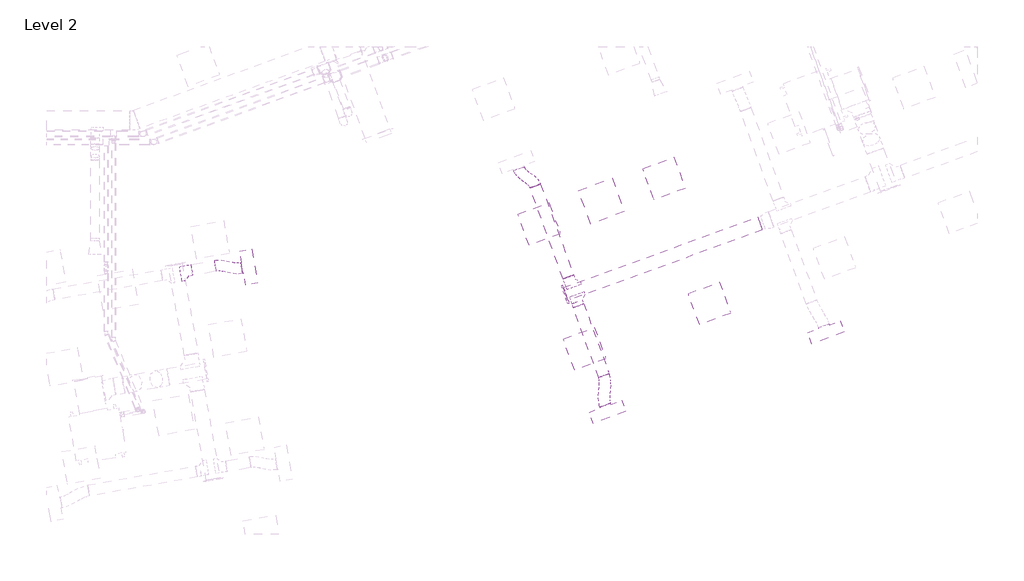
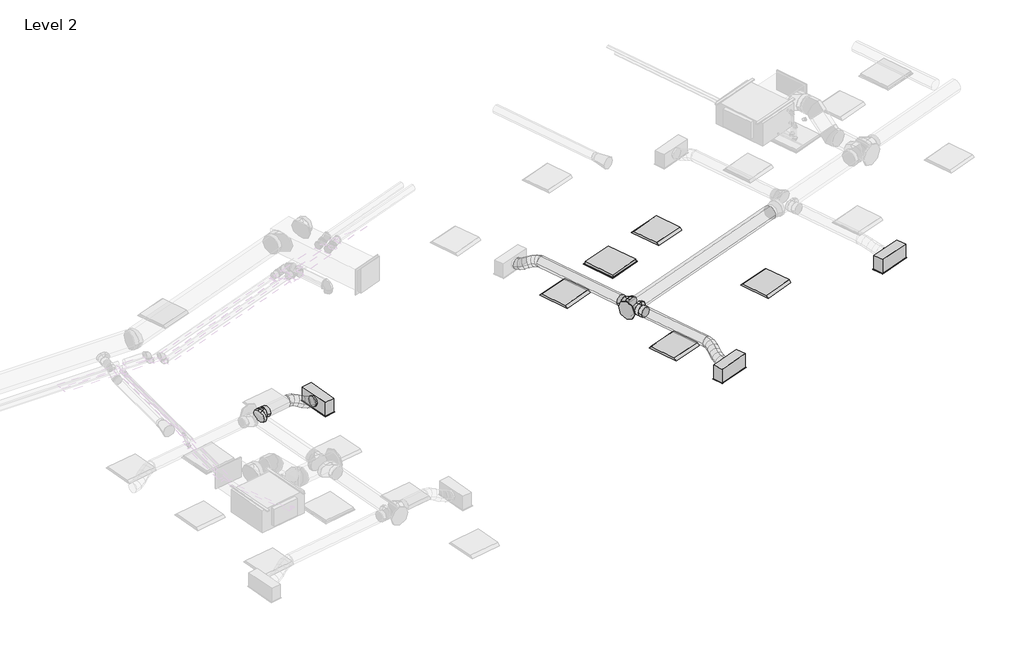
# One storey, part 16 of 26: 6 duct segments, 4 air terminals, 4 duct fittings, 4 light fixtures.
"""IFC4 building model written with IfcOpenShell, lengths in millimetres."""

from ifc_helpers import new_model, si_unit, point, frame, frame_2d, origin, place, context, project, spatial, circle_curve, ellipse_curve, trimmed, segment, composite_curve, outline, extrude, transform, mapped, element, save
from ifc_brep_helpers import plane_surface, cylinder_surface, advanced_brep
from components import return_grille_rectangular_hosted_standard_7b12617c, supply_diffuser_with_plenum_linear_slot_hosted_7a86b773, dw144_round_blank_end_standard_9aa061e7, dw144_round_shoe_branch_slip_joint1_standard_2_15a2edd8, dw144_round_shoe_branch_slip_joint1_standard_2_559552f4, light_fixture_1c7c1157, light_fixture_b730b5ca

model = new_model("IFC4")

# Units and contexts
model_context = context("Model", 3, world=origin())
ifc_project = project(units=[si_unit("LENGTHUNIT", "METRE", prefix="MILLI")], contexts=[model_context])

# Site, building, storey
site = spatial("IfcSite", under=ifc_project)
building = spatial("IfcBuilding", under=site)
storey = spatial("IfcBuildingStorey", under=building, Name="Level 2", Elevation=7800.0)

# Air terminals
placement = place(None, origin())
return_grille_rectangular_hosted_standard_shape = return_grille_rectangular_hosted_standard_7b12617c(model_context)
element("IfcAirTerminal", 1, ObjectType="Return Grille - Rectangular - Hosted : Standard", at=placement, inside=storey, context=model_context, shape_type="MappedRepresentation", body=[
    mapped(return_grille_rectangular_hosted_standard_shape, transform((41652.2340724, 7545.0866539, 10600.0), x_axis=(0.939692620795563, 0.34202014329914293, 0.0), y_axis=(0.34202014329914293, -0.939692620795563, 0.0), z_axis=(0.0, 0.0, -1.0))),
])
supply_diffuser_with_plenum_linear_slot_hosted_shape = supply_diffuser_with_plenum_linear_slot_hosted_7a86b773(model_context)
element("IfcAirTerminal", 2, ObjectType="Supply Diffuser with Plenum - Linear Slot - Hosted : 24\" x 8\"-200 In Inlet  4-Slot", at=placement, inside=storey, context=model_context, shape_type="MappedRepresentation", body=[
    mapped(supply_diffuser_with_plenum_linear_slot_hosted_shape, transform((35287.7668821, 6356.7751304, 10600.0), x_axis=(0.1736481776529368, -0.9848077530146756, 0.0), y_axis=(-0.9848077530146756, -0.1736481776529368, 0.0), z_axis=(0.0, 0.0, -1.0))),
])
element("IfcAirTerminal", 3, ObjectType="Supply Diffuser with Plenum - Linear Slot - Hosted : 24\" x 8\"-200 In Inlet  4-Slot", at=placement, inside=storey, context=model_context, shape_type="MappedRepresentation", body=[
    mapped(supply_diffuser_with_plenum_linear_slot_hosted_shape, transform((45710.0093544, 5175.8970284, 10600.0), x_axis=(-0.9396926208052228, -0.34202014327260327, 0.0), y_axis=(-0.34202014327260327, 0.9396926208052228, 0.0), z_axis=(0.0, 0.0, -1.0))),
])
element("IfcAirTerminal", 4, ObjectType="Supply Diffuser with Plenum - Linear Slot - Hosted : 24\" x 8\"-200 In Inlet  4-Slot", at=placement, inside=storey, context=model_context, shape_type="MappedRepresentation", body=[
    mapped(supply_diffuser_with_plenum_linear_slot_hosted_shape, transform((41763.8772786, 3738.1302766, 10600.0), x_axis=(-0.9396926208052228, -0.34202014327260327, 0.0), y_axis=(-0.34202014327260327, 0.9396926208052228, 0.0), z_axis=(0.0, 0.0, -1.0))),
])

# Duct fittings
dw144_round_blank_end_standard_shape = dw144_round_blank_end_standard_9aa061e7(model_context)
element("IfcDuctFitting", 5, ObjectType="DW144 Round Blank End : Standard", at=placement, inside=storey, context=model_context, shape_type="MappedRepresentation", body=[
    mapped(dw144_round_blank_end_standard_shape, transform((41009.1711145, 5863.2598768, 10872.2088531), x_axis=(-0.9396926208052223, -0.3420201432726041, 0.0), y_axis=(0.3420201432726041, -0.9396926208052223, 0.0), z_axis=(0.0, 0.0, 1.0))),
])
dw144_round_shoe_branch_slip_joint1_standard_2_shape = dw144_round_shoe_branch_slip_joint1_standard_2_15a2edd8(model_context)
element("IfcDuctFitting", 6, ObjectType="DW144 Round Shoe Branch - Slip Joint1 : Standard 2", at=placement, inside=storey, context=model_context, shape_type="MappedRepresentation", body=[
    mapped(dw144_round_shoe_branch_slip_joint1_standard_2_shape, transform((41187.9395023, 5795.3040272, 10872.2088531), x_axis=(0.3420201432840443, -0.9396926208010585, 0.0), y_axis=(-0.9396926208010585, -0.3420201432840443, 0.0), z_axis=(0.0, 0.0, -1.0))),
])
dw144_round_shoe_branch_slip_joint1_standard_2_2_shape = dw144_round_shoe_branch_slip_joint1_standard_2_559552f4(model_context)
element("IfcDuctFitting", 7, ObjectType="DW144 Round Shoe Branch - Slip Joint1 : Standard 2", at=placement, inside=storey, context=model_context, shape_type="MappedRepresentation", body=[
    mapped(dw144_round_shoe_branch_slip_joint1_standard_2_2_shape, transform((34112.5431238, 6274.4580965, 10900.0), x_axis=(0.984807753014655, 0.17364817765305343, 0.0), y_axis=(0.17364817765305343, -0.984807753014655, 0.0), z_axis=(0.0, 0.0, -1.0))),
])
element("IfcDuctFitting", 8, ObjectType="DW144 Round Shoe Branch - Slip Joint1 : Standard 2", at=placement, inside=storey, context=model_context, shape_type="MappedRepresentation", body=[
    mapped(dw144_round_shoe_branch_slip_joint1_standard_2_2_shape, transform((41110.0772481, 6033.0089274, 10872.2088531), x_axis=(-0.34202014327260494, 0.9396926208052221, 0.0), y_axis=(0.9396926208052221, 0.34202014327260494, 0.0), z_axis=(0.0, 0.0, -1.0))),
])

# Duct segments
element("IfcDuctSegment", 9, ObjectType="DW144 Segmented Bend / Shoe Branch", at=placement, inside=storey, context=model_context, shape_type="SweptSolid", body=[
    extrude(outline(composite_curve([segment(trimmed(circle_curve(frame_2d((0.0, -125.0)), 125.0), [point((-125.0, -125.0))], [point((0.0, 0.0))], False, "CARTESIAN"), True, "CONTINUOUS"), segment(trimmed(circle_curve(frame_2d((0.0, -125.0)), 125.0), [point((0.0, 0.0))], [point((125.0, -125.0))], False, "CARTESIAN"), True, "CONTINUOUS"), segment(trimmed(circle_curve(frame_2d((0.0, -125.0)), 125.0), [point((125.0, -125.0))], [point((0.0, -250.0))], False, "CARTESIAN"), True, "CONTINUOUS"), segment(trimmed(circle_curve(frame_2d((0.0, -125.0)), 125.0), [point((0.0, -250.0))], [point((-125.0, -125.0))], False, "CARTESIAN"), True, "CONTINUOUS")], self_intersect=False)), frame((41009.1711145, 5863.2598768, 10747.2088531), z_axis=(0.9396926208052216, 0.34202014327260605, 0.0), x_axis=(0.34202014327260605, -0.9396926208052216, 0.0)), (0.0, 0.0, 1.0), 3731.776784),
])
element("IfcDuctSegment", 10, ObjectType="DW144 Segmented Bend / Shoe Branch", at=placement, inside=storey, context=model_context, shape_type="SweptSolid", body=[
    extrude(outline(composite_curve([segment(trimmed(circle_curve(frame_2d((0.0, -100.0)), 100.0), [point((-100.0, -100.0))], [point((0.0, 0.0))], False, "CARTESIAN"), True, "CONTINUOUS"), segment(trimmed(circle_curve(frame_2d((0.0, -100.0)), 100.0), [point((0.0, 0.0))], [point((99.9999999, -100.0))], False, "CARTESIAN"), True, "CONTINUOUS"), segment(trimmed(circle_curve(frame_2d((0.0, -100.0)), 100.0), [point((99.9999999, -100.0))], [point((0.0, -200.0))], False, "CARTESIAN"), True, "CONTINUOUS"), segment(trimmed(circle_curve(frame_2d((0.0, -100.0)), 100.0), [point((0.0, -200.0))], [point((-100.0, -100.0))], False, "CARTESIAN"), True, "CONTINUOUS")], self_intersect=False)), frame((41698.4387819, 4392.7187837, 10772.2088531), z_axis=(-0.3420201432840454, 0.9396926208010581, 0.0), x_axis=(0.9396926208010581, 0.3420201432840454, 0.0)), (0.0, 0.0, 1.0), 1342.60004),
])
element("IfcDuctSegment", 11, ObjectType="DW144 Segmented Bend / Shoe Branch", at=placement, inside=storey, context=model_context, shape_type="SweptSolid", body=[
    extrude(outline(composite_curve([segment(trimmed(circle_curve(frame_2d((0.0, -100.0)), 100.0), [point((-100.0, -100.0))], [point((0.0, 0.0))], False, "CARTESIAN"), True, "CONTINUOUS"), segment(trimmed(circle_curve(frame_2d((0.0, -100.0)), 100.0), [point((0.0, 0.0))], [point((100.0, -100.0))], False, "CARTESIAN"), True, "CONTINUOUS"), segment(trimmed(circle_curve(frame_2d((0.0, -100.0)), 100.0), [point((100.0, -100.0))], [point((0.0, -200.0))], False, "CARTESIAN"), True, "CONTINUOUS"), segment(trimmed(circle_curve(frame_2d((0.0, -100.0)), 100.0), [point((0.0, -200.0))], [point((-100.0, -100.0))], False, "CARTESIAN"), True, "CONTINUOUS")], self_intersect=False)), frame((41058.7742266, 6173.9628205, 10772.2088531), z_axis=(-0.3420201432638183, 0.9396926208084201, 0.0), x_axis=(0.9396926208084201, 0.3420201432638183, 0.0)), (0.0, 0.0, 1.0), 1749.6371728),
])
element("IfcDuctSegment", 12, ObjectType="Flex - Round", at=placement, inside=storey, context=model_context, shape_type="AdvancedBrep", body=[
    advanced_brep(
    [(34671.2908416, 6474.5230558, 10900.0), (34688.6556593, 6376.0422805, 10800.0), (34706.0204771, 6277.5615052, 10900.0), (34688.6556593, 6376.0422805, 11000.0), (34694.3192001, 6478.5835767, 10900.0), (34694.7587392, 6377.1184181, 10800.0), (34713.5470341, 6278.8886402, 10900.0), (34713.107495, 6380.3537988, 11000.0), (35145.3314797, 6433.2025871, 10754.4), (35162.6962975, 6334.7218118, 10854.4), (35180.0611153, 6236.2410365, 10754.4), (35162.6962975, 6334.7218118, 10654.4), (34790.7844532, 6480.1354897, 10881.9816279), (34757.6019818, 6378.1294272, 10788.2617534), (34779.2180094, 6279.9451413, 10887.7335721), (34812.4004808, 6381.9512038, 10981.4534466), (34894.5790177, 6464.2470527, 10842.1270887), (34840.0946629, 6365.5017933, 10756.5866093), (34863.5022558, 6267.043262, 10855.3705113), (34917.9866107, 6365.7885215, 10940.9109907), (34987.849701, 6443.7208303, 10799.0294887), (34933.3653461, 6344.9755708, 10713.4890093), (34956.7729391, 6246.5170396, 10812.2729113), (35011.257294, 6345.262299, 10897.8133907), (35072.1339474, 6430.818951, 10766.6664279), (35038.951476, 6328.8128885, 10672.9465534), (35060.5675036, 6230.6286026, 10772.4183721), (35093.749975, 6332.6346651, 10866.1382466), (35137.8049227, 6431.875452, 10754.4), (35138.2444618, 6330.4102934, 10654.4), (35157.0327567, 6232.1805156, 10754.4), (35156.5932176, 6333.6456742, 10854.4)],
    [
        (0, 1, circle_curve(frame((34688.6556593, 6376.0422805, 10900.0), z_axis=(-0.9848077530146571, -0.17364817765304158, 0.0), x_axis=(-0.17364817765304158, 0.9848077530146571, 0.0)), 100.0)),
        (1, 2, circle_curve(frame((34688.6556593, 6376.0422805, 10900.0), z_axis=(-0.9848077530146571, -0.17364817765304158, 0.0), x_axis=(-0.17364817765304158, 0.9848077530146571, 0.0)), 100.0)),
        (2, 3, circle_curve(frame((34688.6556593, 6376.0422805, 10900.0), z_axis=(-0.9848077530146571, -0.17364817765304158, 0.0), x_axis=(-0.17364817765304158, 0.9848077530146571, 0.0)), 100.0)),
        (3, 0, circle_curve(frame((34688.6556593, 6376.0422805, 10900.0), z_axis=(-0.9848077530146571, -0.17364817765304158, 0.0), x_axis=(-0.17364817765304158, 0.9848077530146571, 0.0)), 100.0)),
        (0, 4),
        (4, 5, ellipse_curve(frame((34703.9331171, 6378.7361085, 10900.0), z_axis=(-0.9911313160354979, -0.09543210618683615, 0.0924739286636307), x_axis=(-0.007977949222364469, -0.6519009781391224, -0.7582621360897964)), 100.7409075, 100.0)),
        (5, 1),
        (5, 6, ellipse_curve(frame((34703.9331171, 6378.7361085, 10900.0), z_axis=(-0.9911313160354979, -0.09543210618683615, 0.0924739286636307), x_axis=(-0.007977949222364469, -0.6519009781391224, -0.7582621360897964)), 100.7409075, 100.0)),
        (6, 2),
        (6, 7, ellipse_curve(frame((34703.9331171, 6378.7361085, 10900.0), z_axis=(-0.9911313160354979, -0.09543210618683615, 0.0924739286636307), x_axis=(-0.007977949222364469, -0.6519009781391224, -0.7582621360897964)), 100.7409075, 100.0)),
        (7, 3),
        (7, 4, ellipse_curve(frame((34703.9331171, 6378.7361085, 10900.0), z_axis=(-0.9911313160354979, -0.09543210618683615, 0.0924739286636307), x_axis=(-0.007977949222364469, -0.6519009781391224, -0.7582621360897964)), 100.7409075, 100.0)),
        (8, 9, circle_curve(frame((35162.6962975, 6334.7218118, 10754.4), z_axis=(0.9848077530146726, 0.17364817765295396, 0.0), x_axis=(-0.17364817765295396, 0.9848077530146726, 0.0)), 100.0)),
        (9, 10, circle_curve(frame((35162.6962975, 6334.7218118, 10754.4), z_axis=(0.9848077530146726, 0.17364817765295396, 0.0), x_axis=(-0.17364817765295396, 0.9848077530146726, 0.0)), 100.0)),
        (10, 11, circle_curve(frame((35162.6962975, 6334.7218118, 10754.4), z_axis=(0.9848077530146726, 0.17364817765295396, 0.0), x_axis=(-0.17364817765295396, 0.9848077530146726, 0.0)), 100.0)),
        (11, 8, circle_curve(frame((35162.6962975, 6334.7218118, 10754.4), z_axis=(0.9848077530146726, 0.17364817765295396, 0.0), x_axis=(-0.17364817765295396, 0.9848077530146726, 0.0)), 100.0)),
        (4, 12),
        (12, 13, ellipse_curve(frame((34785.0012313, 6380.0403155, 10884.8576), z_axis=(-0.9604468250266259, 0.06328352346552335, 0.2711772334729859), x_axis=(-0.24484041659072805, -0.6558028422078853, -0.7141259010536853)), 100.7268024, 100.0)),
        (13, 5),
        (13, 14, ellipse_curve(frame((34785.0012313, 6380.0403155, 10884.8576), z_axis=(-0.9604468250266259, 0.06328352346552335, 0.2711772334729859), x_axis=(-0.24484041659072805, -0.6558028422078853, -0.7141259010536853)), 100.7268024, 100.0)),
        (14, 6),
        (14, 15, ellipse_curve(frame((34785.0012313, 6380.0403155, 10884.8576), z_axis=(-0.9604468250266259, 0.06328352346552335, 0.2711772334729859), x_axis=(-0.24484041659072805, -0.6558028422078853, -0.7141259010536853)), 100.7268024, 100.0)),
        (15, 7),
        (15, 12, ellipse_curve(frame((34785.0012313, 6380.0403155, 10884.8576), z_axis=(-0.9604468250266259, 0.06328352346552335, 0.2711772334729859), x_axis=(-0.24484041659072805, -0.6558028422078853, -0.7141259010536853)), 100.7268024, 100.0)),
        (12, 16),
        (16, 17, ellipse_curve(frame((34879.0406368, 6365.6451574, 10848.7488), z_axis=(-0.9080011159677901, 0.16883959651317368, 0.38344121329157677), x_axis=(-0.3974152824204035, -0.636847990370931, -0.6606706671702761)), 100.0914629, 100.0)),
        (17, 13),
        (17, 18, ellipse_curve(frame((34879.0406368, 6365.6451574, 10848.7488), z_axis=(-0.9080011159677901, 0.16883959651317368, 0.38344121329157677), x_axis=(-0.3974152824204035, -0.636847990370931, -0.6606706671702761)), 100.0914629, 100.0)),
        (18, 14),
        (18, 19, ellipse_curve(frame((34879.0406368, 6365.6451574, 10848.7488), z_axis=(-0.9080011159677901, 0.16883959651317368, 0.38344121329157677), x_axis=(-0.3974152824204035, -0.636847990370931, -0.6606706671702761)), 100.0914629, 100.0)),
        (19, 15),
        (19, 16, ellipse_curve(frame((34879.0406368, 6365.6451574, 10848.7488), z_axis=(-0.9080011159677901, 0.16883959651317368, 0.38344121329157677), x_axis=(-0.3974152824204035, -0.636847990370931, -0.6606706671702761)), 100.0914629, 100.0)),
        (16, 20),
        (20, 21, ellipse_curve(frame((34972.31132, 6345.1189349, 10805.6512), z_axis=(-0.9080011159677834, 0.16883959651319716, 0.38344121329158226), x_axis=(0.39741528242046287, 0.6368479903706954, 0.6606706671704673)), 100.0914629, 100.0)),
        (21, 17),
        (21, 22, ellipse_curve(frame((34972.31132, 6345.1189349, 10805.6512), z_axis=(-0.9080011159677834, 0.16883959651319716, 0.38344121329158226), x_axis=(0.39741528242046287, 0.6368479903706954, 0.6606706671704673)), 100.0914629, 100.0)),
        (22, 18),
        (22, 23, ellipse_curve(frame((34972.31132, 6345.1189349, 10805.6512), z_axis=(-0.9080011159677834, 0.16883959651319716, 0.38344121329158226), x_axis=(0.39741528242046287, 0.6368479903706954, 0.6606706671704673)), 100.0914629, 100.0)),
        (23, 19),
        (23, 20, ellipse_curve(frame((34972.31132, 6345.1189349, 10805.6512), z_axis=(-0.9080011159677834, 0.16883959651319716, 0.38344121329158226), x_axis=(0.39741528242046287, 0.6368479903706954, 0.6606706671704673)), 100.0914629, 100.0)),
        (20, 24),
        (24, 25, ellipse_curve(frame((35066.3507255, 6330.7237768, 10769.5424), z_axis=(-0.9604468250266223, 0.0632835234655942, 0.27117723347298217), x_axis=(0.24484041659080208, 0.6558028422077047, 0.714125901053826)), 100.7268024, 100.0)),
        (25, 21),
        (25, 26, ellipse_curve(frame((35066.3507255, 6330.7237768, 10769.5424), z_axis=(-0.9604468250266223, 0.0632835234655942, 0.27117723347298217), x_axis=(0.24484041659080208, 0.6558028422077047, 0.714125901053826)), 100.7268024, 100.0)),
        (26, 22),
        (26, 27, ellipse_curve(frame((35066.3507255, 6330.7237768, 10769.5424), z_axis=(-0.9604468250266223, 0.0632835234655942, 0.27117723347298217), x_axis=(0.24484041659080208, 0.6558028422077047, 0.714125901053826)), 100.7268024, 100.0)),
        (27, 23),
        (27, 24, ellipse_curve(frame((35066.3507255, 6330.7237768, 10769.5424), z_axis=(-0.9604468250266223, 0.0632835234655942, 0.27117723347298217), x_axis=(0.24484041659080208, 0.6558028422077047, 0.714125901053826)), 100.7268024, 100.0)),
        (24, 28),
        (28, 29, ellipse_curve(frame((35147.4188397, 6332.0279838, 10754.4), z_axis=(-0.9911313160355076, -0.09543210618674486, 0.09247392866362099), x_axis=(0.007977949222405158, 0.6519009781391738, 0.7582621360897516)), 100.7409075, 100.0)),
        (29, 25),
        (29, 30, ellipse_curve(frame((35147.4188397, 6332.0279838, 10754.4), z_axis=(-0.9911313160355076, -0.09543210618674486, 0.09247392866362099), x_axis=(0.007977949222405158, 0.6519009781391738, 0.7582621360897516)), 100.7409075, 100.0)),
        (30, 26),
        (30, 31, ellipse_curve(frame((35147.4188397, 6332.0279838, 10754.4), z_axis=(-0.9911313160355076, -0.09543210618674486, 0.09247392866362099), x_axis=(0.007977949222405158, 0.6519009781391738, 0.7582621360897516)), 100.7409075, 100.0)),
        (31, 27),
        (31, 28, ellipse_curve(frame((35147.4188397, 6332.0279838, 10754.4), z_axis=(-0.9911313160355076, -0.09543210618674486, 0.09247392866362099), x_axis=(0.007977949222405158, 0.6519009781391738, 0.7582621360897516)), 100.7409075, 100.0)),
        (28, 8),
        (11, 29),
        (10, 30),
        (9, 31),
    ],
    [
        plane_surface(frame((34688.6556593, 6376.0422805, 11000.0), z_axis=(-0.9848077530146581, -0.17364817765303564, 0.0), x_axis=(0.17364817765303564, -0.9848077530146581, 0.0))),
        cylinder_surface(frame((34688.6556593, 6376.0422805, 10900.0), z_axis=(-0.9848077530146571, -0.17364817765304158, 0.0), x_axis=(-0.17364817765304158, 0.9848077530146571, 0.0)), 100.0),
        plane_surface(frame((35162.6962975, 6334.7218118, 10854.4), z_axis=(0.9848077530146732, 0.17364817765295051, 0.0), x_axis=(0.17364817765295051, -0.9848077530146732, 0.0))),
        cylinder_surface(frame((34703.9331171, 6378.7361085, 10900.0), z_axis=(-0.982876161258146, -0.015812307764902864, 0.18358764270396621), x_axis=(-0.018782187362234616, 0.9997191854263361, -0.014449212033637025)), 100.0),
        cylinder_surface(frame((34785.0012313, 6380.0403155, 10884.8576), z_axis=(-0.9241571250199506, 0.14146609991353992, 0.3548534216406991), x_axis=(0.1298695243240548, 0.9899245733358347, -0.05642026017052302)), 100.0),
        cylinder_surface(frame((34879.0406368, 6365.6451574, 10848.7488), z_axis=(-0.8901856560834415, 0.19590452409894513, 0.4113282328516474), x_axis=(0.17996020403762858, 0.9806103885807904, -0.07757313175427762)), 100.0),
        cylinder_surface(frame((34972.31132, 6345.1189349, 10805.6512), z_axis=(-0.9241571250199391, 0.14146609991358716, 0.35485342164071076), x_axis=(0.1298695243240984, 0.9899245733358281, -0.056420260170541)), 100.0),
        cylinder_surface(frame((35066.3507255, 6330.7237768, 10769.5424), z_axis=(-0.982876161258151, -0.015812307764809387, 0.18358764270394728), x_axis=(-0.018782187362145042, 0.9997191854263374, -0.014449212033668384)), 100.0),
        cylinder_surface(frame((35147.4188397, 6332.0279838, 10754.4), z_axis=(-0.9848077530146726, -0.17364817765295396, 0.0), x_axis=(-0.17364817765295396, 0.9848077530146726, 0.0)), 100.0),
    ],
    [
        (0, [[1, 2, 3, 4]]),
        (1, [[-1, 5, 6, 7]]),
        (1, [[-2, -7, 8, 9]]),
        (1, [[-3, -9, 10, 11]]),
        (1, [[-4, -11, 12, -5]]),
        (2, [[13, 14, 15, 16]]),
        (3, [[-6, 17, 18, 19]]),
        (3, [[-8, -19, 20, 21]]),
        (3, [[-10, -21, 22, 23]]),
        (3, [[-12, -23, 24, -17]]),
        (4, [[-18, 25, 26, 27]]),
        (4, [[-20, -27, 28, 29]]),
        (4, [[-22, -29, 30, 31]]),
        (4, [[-24, -31, 32, -25]]),
        (5, [[-26, 33, 34, 35]]),
        (5, [[-28, -35, 36, 37]]),
        (5, [[-30, -37, 38, 39]]),
        (5, [[-32, -39, 40, -33]]),
        (6, [[-34, 41, 42, 43]]),
        (6, [[-36, -43, 44, 45]]),
        (6, [[-38, -45, 46, 47]]),
        (6, [[-40, -47, 48, -41]]),
        (7, [[-42, 49, 50, 51]]),
        (7, [[-44, -51, 52, 53]]),
        (7, [[-46, -53, 54, 55]]),
        (7, [[-48, -55, 56, -49]]),
        (8, [[-50, 57, -16, 58]]),
        (8, [[-52, -58, -15, 59]]),
        (8, [[-54, -59, -14, 60]]),
        (8, [[-56, -60, -13, -57]]),
    ],
),
])
element("IfcDuctSegment", 13, ObjectType="Flex - Round", at=placement, inside=storey, context=model_context, shape_type="AdvancedBrep", body=[
    advanced_brep(
    [(41792.4080439, 4426.9207981, 10872.2088531), (41698.4387819, 4392.7187837, 10772.2088531), (41604.4695198, 4358.5167694, 10872.2088531), (41698.4387819, 4392.7187837, 10972.2088531), (41799.7440222, 4406.7653634, 10872.2088531), (41701.0930333, 4385.4262879, 10772.2088531), (41606.3788778, 4353.2708512, 10872.2088531), (41705.0298668, 4374.6099267, 10972.2088531), (41814.4099825, 3891.6732538, 10754.4), (41720.4407204, 3857.4712395, 10854.4), (41626.4714583, 3823.2692251, 10754.4), (41720.4407204, 3857.4712395, 10654.4), (41817.2858306, 4315.6583647, 10861.5615225), (41713.1746126, 4322.6781145, 10764.8757112), (41617.5916991, 4295.0347522, 10865.4030203), (41721.702917, 4288.0150024, 10962.0888316), (41817.9749067, 4212.8519775, 10836.5225133), (41713.7106657, 4242.7019383, 10745.397114), (41618.1034051, 4218.6910118, 10846.809121), (41722.3676462, 4188.841051, 10937.9345203), (41808.9514299, 4117.7038643, 10806.762506), (41705.4189111, 4155.2694751, 10718.0503736), (41609.9280723, 4132.4861589, 10819.8463472), (41713.4605912, 4094.9205481, 10908.5584795), (41800.7760971, 4031.4990114, 10779.7997322), (41696.511856, 4061.3489722, 10688.6743329), (41600.9045955, 4037.3380457, 10790.0863398), (41705.1688366, 4007.4880849, 10881.2117391), (41801.2878032, 3955.155271, 10761.2058328), (41697.1765852, 3962.1750208, 10664.5200215), (41601.5936717, 3934.5316585, 10765.0473306), (41705.7048896, 3927.5119087, 10861.7331419), (41812.5006244, 3896.919172, 10754.4), (41713.8496354, 3875.5800965, 10654.4), (41619.13548, 3843.4246598, 10754.4), (41717.786469, 3864.7637353, 10854.4)],
    [
        (0, 1, circle_curve(frame((41698.4387819, 4392.7187837, 10872.2088531), z_axis=(-0.3420201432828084, 0.9396926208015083, 0.0), x_axis=(0.9396926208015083, 0.3420201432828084, 0.0)), 100.0)),
        (1, 2, circle_curve(frame((41698.4387819, 4392.7187837, 10872.2088531), z_axis=(-0.3420201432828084, 0.9396926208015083, 0.0), x_axis=(0.9396926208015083, 0.3420201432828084, 0.0)), 100.0)),
        (2, 3, circle_curve(frame((41698.4387819, 4392.7187837, 10872.2088531), z_axis=(-0.3420201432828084, 0.9396926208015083, 0.0), x_axis=(0.9396926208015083, 0.3420201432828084, 0.0)), 100.0)),
        (3, 0, circle_curve(frame((41698.4387819, 4392.7187837, 10872.2088531), z_axis=(-0.3420201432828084, 0.9396926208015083, 0.0), x_axis=(0.9396926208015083, 0.3420201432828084, 0.0)), 100.0)),
        (0, 4),
        (4, 5, ellipse_curve(frame((41703.06145, 4380.0181073, 10872.2088531), z_axis=(-0.2661970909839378, 0.9622153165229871, 0.057278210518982), x_axis=(-0.7903504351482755, -0.18386190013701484, -0.5844150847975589)), 100.4791449, 100.0)),
        (5, 1),
        (5, 6, ellipse_curve(frame((41703.06145, 4380.0181073, 10872.2088531), z_axis=(-0.2661970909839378, 0.9622153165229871, 0.057278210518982), x_axis=(-0.7903504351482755, -0.18386190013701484, -0.5844150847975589)), 100.4791449, 100.0)),
        (6, 2),
        (6, 7, ellipse_curve(frame((41703.06145, 4380.0181073, 10872.2088531), z_axis=(-0.2661970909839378, 0.9622153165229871, 0.057278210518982), x_axis=(-0.7903504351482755, -0.18386190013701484, -0.5844150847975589)), 100.4791449, 100.0)),
        (7, 3),
        (7, 4, ellipse_curve(frame((41703.06145, 4380.0181073, 10872.2088531), z_axis=(-0.2661970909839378, 0.9622153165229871, 0.057278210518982), x_axis=(-0.7903504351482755, -0.18386190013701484, -0.5844150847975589)), 100.4791449, 100.0)),
        (8, 9, circle_curve(frame((41720.4407204, 3857.4712395, 10754.4), z_axis=(0.34202014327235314, -0.9396926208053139, 0.0), x_axis=(0.9396926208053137, 0.3420201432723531, -2.3349690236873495e-12)), 100.0)),
        (9, 10, circle_curve(frame((41720.4407204, 3857.4712395, 10754.4), z_axis=(0.34202014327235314, -0.9396926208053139, 0.0), x_axis=(0.9396926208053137, 0.3420201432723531, -2.3349690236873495e-12)), 100.0)),
        (10, 11, circle_curve(frame((41720.4407204, 3857.4712395, 10754.4), z_axis=(0.34202014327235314, -0.9396926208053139, 0.0), x_axis=(0.9396926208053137, 0.3420201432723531, -2.3349690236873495e-12)), 100.0)),
        (11, 8, circle_curve(frame((41720.4407204, 3857.4712395, 10754.4), z_axis=(0.34202014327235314, -0.9396926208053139, 0.0), x_axis=(0.9396926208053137, 0.3420201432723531, -2.3349690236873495e-12)), 100.0)),
        (4, 12),
        (12, 13, ellipse_curve(frame((41717.4387648, 4305.3465584, 10863.4822714), z_axis=(-0.09776118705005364, 0.9794551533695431, 0.17638127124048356), x_axis=(-0.8282254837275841, 0.01819659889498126, -0.5600994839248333)), 100.604566, 100.0)),
        (13, 5),
        (13, 14, ellipse_curve(frame((41717.4387648, 4305.3465584, 10863.4822714), z_axis=(-0.09776118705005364, 0.9794551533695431, 0.17638127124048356), x_axis=(-0.8282254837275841, 0.01819659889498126, -0.5600994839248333)), 100.604566, 100.0)),
        (14, 6),
        (14, 15, ellipse_curve(frame((41717.4387648, 4305.3465584, 10863.4822714), z_axis=(-0.09776118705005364, 0.9794551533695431, 0.17638127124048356), x_axis=(-0.8282254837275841, 0.01819659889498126, -0.5600994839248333)), 100.604566, 100.0)),
        (15, 7),
        (15, 12, ellipse_curve(frame((41717.4387648, 4305.3465584, 10863.4822714), z_axis=(-0.09776118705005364, 0.9794551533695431, 0.17638127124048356), x_axis=(-0.8282254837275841, 0.01819659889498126, -0.5600994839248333)), 100.604566, 100.0)),
        (12, 16),
        (16, 17, ellipse_curve(frame((41718.0391559, 4215.7714947, 10841.6658171), z_axis=(0.04188627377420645, 0.9626702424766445, 0.267416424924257), x_axis=(-0.8329227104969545, 0.1814649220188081, -0.5227908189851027)), 100.168754, 100.0)),
        (17, 13),
        (17, 18, ellipse_curve(frame((41718.0391559, 4215.7714947, 10841.6658171), z_axis=(0.04188627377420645, 0.9626702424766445, 0.267416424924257), x_axis=(-0.8329227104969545, 0.1814649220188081, -0.5227908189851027)), 100.168754, 100.0)),
        (18, 14),
        (18, 19, ellipse_curve(frame((41718.0391559, 4215.7714947, 10841.6658171), z_axis=(0.04188627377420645, 0.9626702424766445, 0.267416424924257), x_axis=(-0.8329227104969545, 0.1814649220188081, -0.5227908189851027)), 100.168754, 100.0)),
        (19, 15),
        (19, 16, ellipse_curve(frame((41718.0391559, 4215.7714947, 10841.6658171), z_axis=(0.04188627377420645, 0.9626702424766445, 0.267416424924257), x_axis=(-0.8329227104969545, 0.1814649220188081, -0.5227908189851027)), 100.168754, 100.0)),
        (16, 20),
        (20, 21, circle_curve(frame((41709.4397511, 4125.0950116, 10813.3044266), z_axis=(0.09014356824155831, 0.950519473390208, 0.2972992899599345), x_axis=(0.9951167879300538, -0.07391147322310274, -0.06541920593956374)), 100.0)),
        (21, 17),
        (21, 22, circle_curve(frame((41709.4397511, 4125.0950116, 10813.3044266), z_axis=(0.09014356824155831, 0.950519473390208, 0.2972992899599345), x_axis=(0.9951167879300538, -0.07391147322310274, -0.06541920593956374)), 100.0)),
        (22, 18),
        (22, 23, circle_curve(frame((41709.4397511, 4125.0950116, 10813.3044266), z_axis=(0.09014356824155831, 0.950519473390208, 0.2972992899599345), x_axis=(0.9951167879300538, -0.07391147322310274, -0.06541920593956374)), 100.0)),
        (23, 19),
        (23, 20, circle_curve(frame((41709.4397511, 4125.0950116, 10813.3044266), z_axis=(0.09014356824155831, 0.950519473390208, 0.2972992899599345), x_axis=(0.9951167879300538, -0.07391147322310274, -0.06541920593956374)), 100.0)),
        (20, 24),
        (24, 25, ellipse_curve(frame((41700.8403463, 4034.4185286, 10784.943036), z_axis=(0.04188627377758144, 0.962670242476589, 0.2674164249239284), x_axis=(0.8329227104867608, -0.18146492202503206, 0.5227908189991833)), 100.168754, 100.0)),
        (25, 21),
        (25, 26, ellipse_curve(frame((41700.8403463, 4034.4185286, 10784.943036), z_axis=(0.04188627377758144, 0.962670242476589, 0.2674164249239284), x_axis=(0.8329227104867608, -0.18146492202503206, 0.5227908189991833)), 100.168754, 100.0)),
        (26, 22),
        (26, 27, ellipse_curve(frame((41700.8403463, 4034.4185286, 10784.943036), z_axis=(0.04188627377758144, 0.962670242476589, 0.2674164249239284), x_axis=(0.8329227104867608, -0.18146492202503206, 0.5227908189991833)), 100.168754, 100.0)),
        (27, 23),
        (27, 24, ellipse_curve(frame((41700.8403463, 4034.4185286, 10784.943036), z_axis=(0.04188627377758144, 0.962670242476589, 0.2674164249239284), x_axis=(0.8329227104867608, -0.18146492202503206, 0.5227908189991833)), 100.168754, 100.0)),
        (24, 28),
        (28, 29, ellipse_curve(frame((41701.4407374, 3944.8434648, 10763.1265817), z_axis=(-0.09776118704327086, 0.9794551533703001, 0.17638127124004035), x_axis=(0.8282254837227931, -0.018196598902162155, 0.5600994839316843)), 100.604566, 100.0)),
        (29, 25),
        (29, 30, ellipse_curve(frame((41701.4407374, 3944.8434648, 10763.1265817), z_axis=(-0.09776118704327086, 0.9794551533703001, 0.17638127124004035), x_axis=(0.8282254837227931, -0.018196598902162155, 0.5600994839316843)), 100.604566, 100.0)),
        (30, 26),
        (30, 31, ellipse_curve(frame((41701.4407374, 3944.8434648, 10763.1265817), z_axis=(-0.09776118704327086, 0.9794551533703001, 0.17638127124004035), x_axis=(0.8282254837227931, -0.018196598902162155, 0.5600994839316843)), 100.604566, 100.0)),
        (31, 27),
        (31, 28, ellipse_curve(frame((41701.4407374, 3944.8434648, 10763.1265817), z_axis=(-0.09776118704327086, 0.9794551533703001, 0.17638127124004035), x_axis=(0.8282254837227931, -0.018196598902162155, 0.5600994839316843)), 100.604566, 100.0)),
        (28, 32),
        (32, 33, ellipse_curve(frame((41715.8180522, 3870.1719159, 10754.4), z_axis=(-0.2661970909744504, 0.9622153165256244, 0.05727821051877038), x_axis=(0.7903504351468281, 0.18386190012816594, 0.5844150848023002)), 100.4791449, 100.0)),
        (33, 29),
        (33, 34, ellipse_curve(frame((41715.8180522, 3870.1719159, 10754.4), z_axis=(-0.2661970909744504, 0.9622153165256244, 0.05727821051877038), x_axis=(0.7903504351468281, 0.18386190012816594, 0.5844150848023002)), 100.4791449, 100.0)),
        (34, 30),
        (34, 35, ellipse_curve(frame((41715.8180522, 3870.1719159, 10754.4), z_axis=(-0.2661970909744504, 0.9622153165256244, 0.05727821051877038), x_axis=(0.7903504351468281, 0.18386190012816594, 0.5844150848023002)), 100.4791449, 100.0)),
        (35, 31),
        (35, 32, ellipse_curve(frame((41715.8180522, 3870.1719159, 10754.4), z_axis=(-0.2661970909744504, 0.9622153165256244, 0.05727821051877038), x_axis=(0.7903504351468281, 0.18386190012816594, 0.5844150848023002)), 100.4791449, 100.0)),
        (32, 8),
        (11, 33),
        (10, 34),
        (9, 35),
    ],
    [
        plane_surface(frame((41698.4387819, 4392.7187837, 10772.2088531), z_axis=(-0.34202014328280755, 0.9396926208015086, 0.0), x_axis=(0.9396926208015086, 0.34202014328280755, 0.0))),
        cylinder_surface(frame((41698.4387819, 4392.7187837, 10872.2088531), z_axis=(-0.3420201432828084, 0.9396926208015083, 0.0), x_axis=(0.9396926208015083, 0.3420201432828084, 0.0)), 100.0),
        plane_surface(frame((41720.4407204, 3857.4712395, 10654.4), z_axis=(0.34202014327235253, -0.939692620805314, 0.0), x_axis=(0.939692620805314, 0.34202014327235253, 0.0))),
        cylinder_surface(frame((41703.06145, 4380.0181073, 10872.2088531), z_axis=(-0.18783526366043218, 0.9755611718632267, 0.1140101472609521), x_axis=(0.9817270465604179, 0.19007945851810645, -0.00904463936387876)), 100.0),
        cylinder_surface(frame((41717.4387648, 4305.3465584, 10863.4822714), z_axis=(-0.006512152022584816, 0.9715773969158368, 0.2366325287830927), x_axis=(0.9990511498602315, 0.016511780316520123, -0.04030088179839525)), 100.0),
        cylinder_surface(frame((41718.0391559, 4215.7714947, 10841.6658171), z_axis=(0.09014356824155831, 0.950519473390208, 0.2972992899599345), x_axis=(0.9951167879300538, -0.07391147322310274, -0.06541920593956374)), 100.0),
        cylinder_surface(frame((41709.4397511, 4125.0950116, 10813.3044266), z_axis=(0.09014356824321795, 0.9505194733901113, 0.2972992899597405), x_axis=(0.9951167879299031, -0.07391147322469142, -0.06541920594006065)), 100.0),
        cylinder_surface(frame((41700.8403463, 4034.4185286, 10784.943036), z_axis=(-0.006512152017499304, 0.9715773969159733, 0.23663252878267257), x_axis=(0.9990511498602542, 0.01651178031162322, -0.040300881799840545)), 100.0),
        cylinder_surface(frame((41701.4407374, 3944.8434648, 10763.1265817), z_axis=(-0.18783526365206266, 0.9755611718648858, 0.11401014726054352), x_axis=(0.9817270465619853, 0.1900794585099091, -0.009044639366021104)), 100.0),
        cylinder_surface(frame((41715.8180522, 3870.1719159, 10754.4), z_axis=(-0.3420201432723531, 0.9396926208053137, 0.0), x_axis=(0.9396926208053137, 0.3420201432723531, -2.3349690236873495e-12)), 100.0),
    ],
    [
        (0, [[1, 2, 3, 4]]),
        (1, [[-1, 5, 6, 7]]),
        (1, [[-2, -7, 8, 9]]),
        (1, [[-3, -9, 10, 11]]),
        (1, [[-4, -11, 12, -5]]),
        (2, [[13, 14, 15, 16]]),
        (3, [[-6, 17, 18, 19]]),
        (3, [[-8, -19, 20, 21]]),
        (3, [[-10, -21, 22, 23]]),
        (3, [[-12, -23, 24, -17]]),
        (4, [[-18, 25, 26, 27]]),
        (4, [[-20, -27, 28, 29]]),
        (4, [[-22, -29, 30, 31]]),
        (4, [[-24, -31, 32, -25]]),
        (5, [[-26, 33, 34, 35]]),
        (5, [[-28, -35, 36, 37]]),
        (5, [[-30, -37, 38, 39]]),
        (5, [[-32, -39, 40, -33]]),
        (6, [[-34, 41, 42, 43]]),
        (6, [[-36, -43, 44, 45]]),
        (6, [[-38, -45, 46, 47]]),
        (6, [[-40, -47, 48, -41]]),
        (7, [[-42, 49, 50, 51]]),
        (7, [[-44, -51, 52, 53]]),
        (7, [[-46, -53, 54, 55]]),
        (7, [[-48, -55, 56, -49]]),
        (8, [[-50, 57, 58, 59]]),
        (8, [[-52, -59, 60, 61]]),
        (8, [[-54, -61, 62, 63]]),
        (8, [[-56, -63, 64, -57]]),
        (9, [[-58, 65, -16, 66]]),
        (9, [[-60, -66, -15, 67]]),
        (9, [[-62, -67, -14, 68]]),
        (9, [[-64, -68, -13, -65]]),
    ],
),
])
element("IfcDuctSegment", 14, ObjectType="Flex - Round", at=placement, inside=storey, context=model_context, shape_type="AdvancedBrep", body=[
    advanced_brep(
    [(40366.393808, 7783.8819465, 10872.2088531), (40460.3630701, 7818.0839608, 10772.2088531), (40554.3323322, 7852.2859752, 10872.2088531), (40460.3630701, 7818.0839608, 10972.2088531), (40364.3216977, 7789.5750228, 10872.2088531), (40457.0037895, 7827.3135085, 10772.2088531), (40544.1457878, 7880.2732759, 10872.2088531), (40451.463696, 7842.5347903, 10972.2088531), (40069.043266, 8096.338625, 10754.4), (40163.0125281, 8130.5406393, 10854.4), (40256.9817902, 8164.7426537, 10754.4), (40163.0125281, 8130.5406393, 10654.4), (40346.4702691, 7816.4258249, 10867.0258994), (40435.2802166, 7859.9885044, 10765.9016675), (40501.8840229, 7943.8403051, 10859.9386434), (40413.0740754, 7900.2776256, 10961.0628753), (40305.5802648, 7855.6316211, 10849.9471137), (40390.7916202, 7902.6446711, 10747.3198352), (40438.30818, 8004.7975386, 10833.3845206), (40353.0968246, 7957.7844886, 10936.0117991), (40249.8105937, 7896.445782, 10823.69754), (40333.5985069, 7944.5005559, 10720.4002781), (40373.5650045, 8052.1788182, 10802.9113131), (40289.7770913, 8004.1240443, 10906.208575), (40185.0674182, 7943.8270616, 10793.2243325), (40270.2787736, 7990.8401116, 10690.5970541), (40317.7953334, 8092.9929791, 10776.6617395), (40232.583978, 8045.979929, 10879.2890179), (40121.4915753, 8004.7842951, 10766.6702097), (40210.3015228, 8048.3469746, 10665.5459778), (40276.9053291, 8132.1987753, 10759.5829537), (40188.0953817, 8088.6360958, 10860.7071856), (40079.2298104, 8068.3513242, 10754.4), (40171.9119022, 8106.0898099, 10654.4), (40259.0539005, 8159.0495774, 10754.4), (40166.3718087, 8121.3110917, 10854.4)],
    [
        (0, 1, circle_curve(frame((40460.3630701, 7818.0839608, 10872.2088531), z_axis=(0.34202014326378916, -0.9396926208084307, 0.0), x_axis=(-0.9396926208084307, -0.34202014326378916, 0.0)), 100.0)),
        (1, 2, circle_curve(frame((40460.3630701, 7818.0839608, 10872.2088531), z_axis=(0.34202014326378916, -0.9396926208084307, 0.0), x_axis=(-0.9396926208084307, -0.34202014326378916, 0.0)), 100.0)),
        (2, 3, circle_curve(frame((40460.3630701, 7818.0839608, 10872.2088531), z_axis=(0.34202014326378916, -0.9396926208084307, 0.0), x_axis=(-0.9396926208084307, -0.34202014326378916, 0.0)), 100.0)),
        (3, 0, circle_curve(frame((40460.3630701, 7818.0839608, 10872.2088531), z_axis=(0.34202014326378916, -0.9396926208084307, 0.0), x_axis=(-0.9396926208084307, -0.34202014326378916, 0.0)), 100.0)),
        (0, 4),
        (4, 5, ellipse_curve(frame((40454.2337427, 7834.9241494, 10872.2088531), z_axis=(0.4488843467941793, -0.8899864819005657, 0.0801679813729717), x_axis=(-0.7195532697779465, -0.41319781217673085, -0.5581314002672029)), 101.0263042, 100.0)),
        (5, 1),
        (5, 6, ellipse_curve(frame((40454.2337427, 7834.9241494, 10872.2088531), z_axis=(0.4488843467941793, -0.8899864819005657, 0.0801679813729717), x_axis=(-0.7195532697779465, -0.41319781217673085, -0.5581314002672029)), 101.0263042, 100.0)),
        (6, 2),
        (6, 7, ellipse_curve(frame((40454.2337427, 7834.9241494, 10872.2088531), z_axis=(0.4488843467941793, -0.8899864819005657, 0.0801679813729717), x_axis=(-0.7195532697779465, -0.41319781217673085, -0.5581314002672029)), 101.0263042, 100.0)),
        (7, 3),
        (7, 4, ellipse_curve(frame((40454.2337427, 7834.9241494, 10872.2088531), z_axis=(0.4488843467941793, -0.8899864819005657, 0.0801679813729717), x_axis=(-0.7195532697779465, -0.41319781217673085, -0.5581314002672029)), 101.0263042, 100.0)),
        (8, 9, circle_curve(frame((40163.0125281, 8130.5406393, 10754.4), z_axis=(-0.34202014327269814, 0.9396926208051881, 0.0), x_axis=(-0.9396926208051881, -0.34202014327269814, 2.4728274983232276e-12)), 100.0)),
        (9, 10, circle_curve(frame((40163.0125281, 8130.5406393, 10754.4), z_axis=(-0.34202014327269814, 0.9396926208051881, 0.0), x_axis=(-0.9396926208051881, -0.34202014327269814, 2.4728274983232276e-12)), 100.0)),
        (10, 11, circle_curve(frame((40163.0125281, 8130.5406393, 10754.4), z_axis=(-0.34202014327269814, 0.9396926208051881, 0.0), x_axis=(-0.9396926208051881, -0.34202014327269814, 2.4728274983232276e-12)), 100.0)),
        (11, 8, circle_curve(frame((40163.0125281, 8130.5406393, 10754.4), z_axis=(-0.34202014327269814, 0.9396926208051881, 0.0), x_axis=(-0.9396926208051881, -0.34202014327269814, 2.4728274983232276e-12)), 100.0)),
        (4, 12),
        (12, 13, ellipse_curve(frame((40424.177146, 7880.133065, 10863.4822714), z_axis=(0.6238088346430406, -0.7483491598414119, 0.22546856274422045), x_axis=(-0.574557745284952, -0.6346510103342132, -0.516818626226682)), 100.7997233, 100.0)),
        (13, 5),
        (13, 14, ellipse_curve(frame((40424.177146, 7880.133065, 10863.4822714), z_axis=(0.6238088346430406, -0.7483491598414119, 0.22546856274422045), x_axis=(-0.574557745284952, -0.6346510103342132, -0.516818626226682)), 100.7997233, 100.0)),
        (14, 6),
        (14, 15, ellipse_curve(frame((40424.177146, 7880.133065, 10863.4822714), z_axis=(0.6238088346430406, -0.7483491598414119, 0.22546856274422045), x_axis=(-0.574557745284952, -0.6346510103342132, -0.516818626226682)), 100.7997233, 100.0)),
        (15, 7),
        (15, 12, ellipse_curve(frame((40424.177146, 7880.133065, 10863.4822714), z_axis=(0.6238088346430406, -0.7483491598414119, 0.22546856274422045), x_axis=(-0.574557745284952, -0.6346510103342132, -0.516818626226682)), 100.7997233, 100.0)),
        (12, 16),
        (16, 17, ellipse_curve(frame((40371.9442224, 7930.2145799, 10841.6658171), z_axis=(0.7246151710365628, -0.6089322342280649, 0.3226986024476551), x_axis=(-0.44066644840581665, -0.769421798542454, -0.462388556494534)), 100.25897, 100.0)),
        (17, 13),
        (17, 18, ellipse_curve(frame((40371.9442224, 7930.2145799, 10841.6658171), z_axis=(0.7246151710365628, -0.6089322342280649, 0.3226986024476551), x_axis=(-0.44066644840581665, -0.769421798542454, -0.462388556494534)), 100.25897, 100.0)),
        (18, 14),
        (18, 19, ellipse_curve(frame((40371.9442224, 7930.2145799, 10841.6658171), z_axis=(0.7246151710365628, -0.6089322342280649, 0.3226986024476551), x_axis=(-0.44066644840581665, -0.769421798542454, -0.462388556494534)), 100.25897, 100.0)),
        (19, 15),
        (19, 16, ellipse_curve(frame((40371.9442224, 7930.2145799, 10841.6658171), z_axis=(0.7246151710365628, -0.6089322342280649, 0.3226986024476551), x_axis=(-0.44066644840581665, -0.769421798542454, -0.462388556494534)), 100.25897, 100.0)),
        (16, 20),
        (20, 21, circle_curve(frame((40311.6877991, 7974.3123001, 10813.3044266), z_axis=(0.7543959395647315, -0.5520928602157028, 0.3550777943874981), x_axis=(-0.6187720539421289, -0.7786651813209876, 0.10393113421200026)), 100.0)),
        (21, 17),
        (21, 22, circle_curve(frame((40311.6877991, 7974.3123001, 10813.3044266), z_axis=(0.7543959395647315, -0.5520928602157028, 0.3550777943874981), x_axis=(-0.6187720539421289, -0.7786651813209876, 0.10393113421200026)), 100.0)),
        (22, 18),
        (22, 23, circle_curve(frame((40311.6877991, 7974.3123001, 10813.3044266), z_axis=(0.7543959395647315, -0.5520928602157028, 0.3550777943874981), x_axis=(-0.6187720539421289, -0.7786651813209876, 0.10393113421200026)), 100.0)),
        (23, 19),
        (23, 20, circle_curve(frame((40311.6877991, 7974.3123001, 10813.3044266), z_axis=(0.7543959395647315, -0.5520928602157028, 0.3550777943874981), x_axis=(-0.6187720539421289, -0.7786651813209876, 0.10393113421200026)), 100.0)),
        (20, 24),
        (24, 25, ellipse_curve(frame((40251.4313758, 8018.4100203, 10784.943036), z_axis=(0.7246151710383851, -0.6089322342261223, 0.32269860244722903), x_axis=(0.440666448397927, 0.7694217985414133, 0.4623885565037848)), 100.25897, 100.0)),
        (25, 21),
        (25, 26, ellipse_curve(frame((40251.4313758, 8018.4100203, 10784.943036), z_axis=(0.7246151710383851, -0.6089322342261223, 0.32269860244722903), x_axis=(0.440666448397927, 0.7694217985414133, 0.4623885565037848)), 100.25897, 100.0)),
        (26, 22),
        (26, 27, ellipse_curve(frame((40251.4313758, 8018.4100203, 10784.943036), z_axis=(0.7246151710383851, -0.6089322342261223, 0.32269860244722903), x_axis=(0.440666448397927, 0.7694217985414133, 0.4623885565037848)), 100.25897, 100.0)),
        (27, 23),
        (27, 24, ellipse_curve(frame((40251.4313758, 8018.4100203, 10784.943036), z_axis=(0.7246151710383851, -0.6089322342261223, 0.32269860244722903), x_axis=(0.440666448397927, 0.7694217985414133, 0.4623885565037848)), 100.25897, 100.0)),
        (24, 28),
        (28, 29, ellipse_curve(frame((40199.1984522, 8068.4915352, 10763.1265817), z_axis=(0.623808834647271, -0.7483491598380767, 0.22546856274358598), x_axis=(0.5745577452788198, 0.6346510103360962, 0.5168186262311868)), 100.7997233, 100.0)),
        (29, 25),
        (29, 30, ellipse_curve(frame((40199.1984522, 8068.4915352, 10763.1265817), z_axis=(0.623808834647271, -0.7483491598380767, 0.22546856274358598), x_axis=(0.5745577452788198, 0.6346510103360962, 0.5168186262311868)), 100.7997233, 100.0)),
        (30, 26),
        (30, 31, ellipse_curve(frame((40199.1984522, 8068.4915352, 10763.1265817), z_axis=(0.623808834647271, -0.7483491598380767, 0.22546856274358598), x_axis=(0.5745577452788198, 0.6346510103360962, 0.5168186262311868)), 100.7997233, 100.0)),
        (31, 27),
        (31, 28, ellipse_curve(frame((40199.1984522, 8068.4915352, 10763.1265817), z_axis=(0.623808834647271, -0.7483491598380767, 0.22546856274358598), x_axis=(0.5745577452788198, 0.6346510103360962, 0.5168186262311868)), 100.7997233, 100.0)),
        (28, 32),
        (32, 33, ellipse_curve(frame((40169.1418555, 8113.7004508, 10754.4), z_axis=(0.4488843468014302, -0.8899864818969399, 0.08016798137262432), x_axis=(0.7195532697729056, 0.4131978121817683, 0.5581314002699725)), 101.0263042, 100.0)),
        (33, 29),
        (33, 34, ellipse_curve(frame((40169.1418555, 8113.7004508, 10754.4), z_axis=(0.4488843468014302, -0.8899864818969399, 0.08016798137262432), x_axis=(0.7195532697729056, 0.4131978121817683, 0.5581314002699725)), 101.0263042, 100.0)),
        (34, 30),
        (34, 35, ellipse_curve(frame((40169.1418555, 8113.7004508, 10754.4), z_axis=(0.4488843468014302, -0.8899864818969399, 0.08016798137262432), x_axis=(0.7195532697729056, 0.4131978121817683, 0.5581314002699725)), 101.0263042, 100.0)),
        (35, 31),
        (35, 32, ellipse_curve(frame((40169.1418555, 8113.7004508, 10754.4), z_axis=(0.4488843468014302, -0.8899864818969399, 0.08016798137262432), x_axis=(0.7195532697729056, 0.4131978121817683, 0.5581314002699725)), 101.0263042, 100.0)),
        (32, 8),
        (11, 33),
        (10, 34),
        (9, 35),
    ],
    [
        plane_surface(frame((40460.3630701, 7818.0839608, 10972.2088531), z_axis=(0.3420201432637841, -0.9396926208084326, 0.0), x_axis=(0.9396926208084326, 0.3420201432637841, 0.0))),
        cylinder_surface(frame((40460.3630701, 7818.0839608, 10872.2088531), z_axis=(0.34202014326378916, -0.9396926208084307, 0.0), x_axis=(-0.9396926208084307, -0.34202014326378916, 0.0)), 100.0),
        plane_surface(frame((40163.0125281, 8130.5406393, 10854.4), z_axis=(-0.3420201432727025, 0.9396926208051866, 0.0), x_axis=(0.9396926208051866, 0.3420201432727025, 0.0))),
        cylinder_surface(frame((40454.2337427, 7834.9241494, 10872.2088531), z_axis=(0.5466283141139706, -0.8221979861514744, 0.1587071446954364), x_axis=(-0.8342766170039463, -0.551024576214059, 0.018826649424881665)), 100.0),
        cylinder_surface(frame((40424.177146, 7880.133065, 10863.4822714), z_axis=(0.6910910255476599, -0.6626258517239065, 0.2886523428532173), x_axis=(-0.704742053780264, -0.7064200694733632, 0.06564543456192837)), 100.0),
        cylinder_surface(frame((40371.9442224, 7930.2145799, 10841.6658171), z_axis=(0.7543959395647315, -0.5520928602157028, 0.3550777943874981), x_axis=(-0.6187720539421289, -0.7786651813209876, 0.10393113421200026)), 100.0),
        cylinder_surface(frame((40311.6877991, 7974.3123001, 10813.3044266), z_axis=(0.7543959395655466, -0.5520928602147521, 0.3550777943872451), x_axis=(-0.6187720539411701, -0.7786651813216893, 0.10393113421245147)), 100.0),
        cylinder_surface(frame((40251.4313758, 8018.4100203, 10784.943036), z_axis=(0.6910910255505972, -0.6626258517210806, 0.2886523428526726), x_axis=(-0.704742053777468, -0.706420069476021, 0.06564543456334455)), 100.0),
        cylinder_surface(frame((40199.1984522, 8068.4915352, 10763.1265817), z_axis=(0.5466283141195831, -0.8221979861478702, 0.15870714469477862), x_axis=(-0.8342766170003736, -0.5510245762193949, 0.018826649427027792)), 100.0),
        cylinder_surface(frame((40169.1418555, 8113.7004508, 10754.4), z_axis=(0.34202014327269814, -0.9396926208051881, 0.0), x_axis=(-0.9396926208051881, -0.34202014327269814, 2.4728274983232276e-12)), 100.0),
    ],
    [
        (0, [[1, 2, 3, 4]]),
        (1, [[-1, 5, 6, 7]]),
        (1, [[-2, -7, 8, 9]]),
        (1, [[-3, -9, 10, 11]]),
        (1, [[-4, -11, 12, -5]]),
        (2, [[13, 14, 15, 16]]),
        (3, [[-6, 17, 18, 19]]),
        (3, [[-8, -19, 20, 21]]),
        (3, [[-10, -21, 22, 23]]),
        (3, [[-12, -23, 24, -17]]),
        (4, [[-18, 25, 26, 27]]),
        (4, [[-20, -27, 28, 29]]),
        (4, [[-22, -29, 30, 31]]),
        (4, [[-24, -31, 32, -25]]),
        (5, [[-26, 33, 34, 35]]),
        (5, [[-28, -35, 36, 37]]),
        (5, [[-30, -37, 38, 39]]),
        (5, [[-32, -39, 40, -33]]),
        (6, [[-34, 41, 42, 43]]),
        (6, [[-36, -43, 44, 45]]),
        (6, [[-38, -45, 46, 47]]),
        (6, [[-40, -47, 48, -41]]),
        (7, [[-42, 49, 50, 51]]),
        (7, [[-44, -51, 52, 53]]),
        (7, [[-46, -53, 54, 55]]),
        (7, [[-48, -55, 56, -49]]),
        (8, [[-50, 57, 58, 59]]),
        (8, [[-52, -59, 60, 61]]),
        (8, [[-54, -61, 62, 63]]),
        (8, [[-56, -63, 64, -57]]),
        (9, [[-58, 65, -16, 66]]),
        (9, [[-60, -66, -15, 67]]),
        (9, [[-62, -67, -14, 68]]),
        (9, [[-64, -68, -13, -65]]),
    ],
),
])

# Light fixtures
light_fixture_shape = light_fixture_1c7c1157(model_context)
element("IfcLightFixture", 15, ObjectType="ELEKTRA Plain Recessed Lighting Fixture : 24\" x 24\" - 230", at=placement, inside=storey, context=model_context, shape_type="MappedRepresentation", body=[
    mapped(light_fixture_shape, transform((41169.7261217, 4491.7990704, 10600.0), x_axis=(0.9396926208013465, 0.3420201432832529, 0.0), y_axis=(0.3420201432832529, -0.9396926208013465, 0.0), z_axis=(0.0, 0.0, -1.0))),
])
element("IfcLightFixture", 16, ObjectType="ELEKTRA Plain Recessed Lighting Fixture : 24\" x 24\" - 230", at=placement, inside=storey, context=model_context, shape_type="MappedRepresentation", body=[
    mapped(light_fixture_shape, transform((40348.8777778, 6747.0613604, 10600.0), x_axis=(0.9396926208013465, 0.34202014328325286, 0.0), y_axis=(0.34202014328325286, -0.9396926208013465, 0.0), z_axis=(0.0, 0.0, -1.0))),
])
element("IfcLightFixture", 17, ObjectType="ELEKTRA Plain Recessed Lighting Fixture : 24\" x 24\" - 230", at=placement, inside=storey, context=model_context, shape_type="MappedRepresentation", body=[
    mapped(light_fixture_shape, transform((43424.9884116, 5312.6474143, 10600.0), x_axis=(0.9396926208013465, 0.3420201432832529, 0.0), y_axis=(0.3420201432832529, -0.9396926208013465, 0.0), z_axis=(0.0, 0.0, -1.0))),
])
light_fixture_2_shape = light_fixture_b730b5ca(model_context)
element("IfcLightFixture", 18, ObjectType="ELEKTRA EM Recessed Lighting Fixture : 24\" x 24\" - 230", at=placement, inside=storey, context=model_context, shape_type="MappedRepresentation", body=[
    mapped(light_fixture_2_shape, transform((42604.1400678, 7567.9097042, 10600.0), x_axis=(0.9396926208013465, 0.34202014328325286, 0.0), y_axis=(0.34202014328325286, -0.9396926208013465, 0.0), z_axis=(0.0, 0.0, -1.0))),
])

save(model, "model.ifc")
